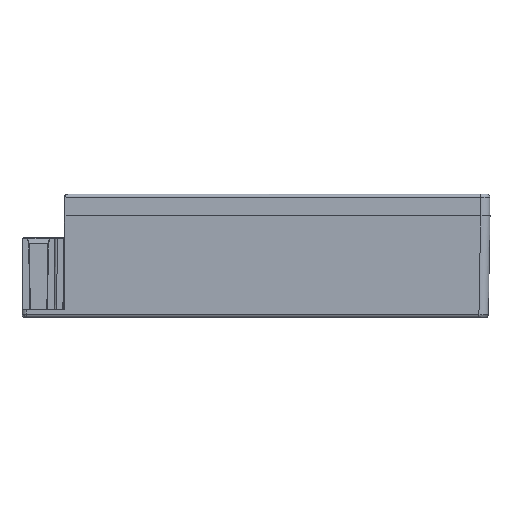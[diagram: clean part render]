
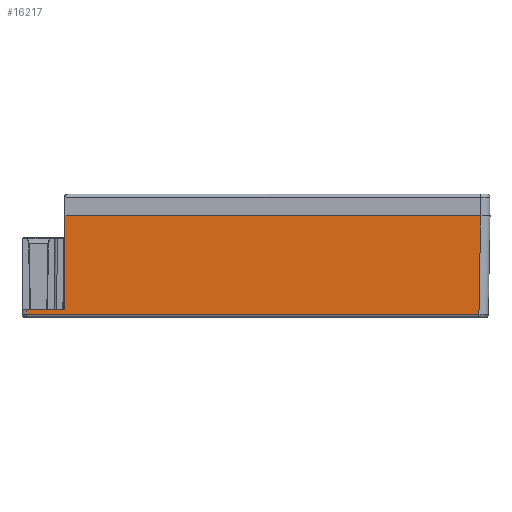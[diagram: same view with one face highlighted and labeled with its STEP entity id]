
A CAD part, top view. The second image highlights one B-rep face of the part: STEP entity #16217.
In plain terms, the highlighted planar face has unit normal (0, -0.018, 1).
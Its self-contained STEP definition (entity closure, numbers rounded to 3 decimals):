
#67 = EDGE_LOOP ( 'NONE', ( #12409, #9169, #13700, #2687, #20433, #3407 ) ) ;
#110 = LINE ( 'NONE', #12099, #1536 ) ;
#453 = VERTEX_POINT ( 'NONE', #20239 ) ;
#1346 = LINE ( 'NONE', #13482, #9421 ) ;
#1536 = VECTOR ( 'NONE', #24482, 1000. ) ;
#1581 = VERTEX_POINT ( 'NONE', #17806 ) ;
#2687 = ORIENTED_EDGE ( 'NONE', *, *, #16764, .F. ) ;
#3407 = ORIENTED_EDGE ( 'NONE', *, *, #8442, .F. ) ;
#3654 = AXIS2_PLACEMENT_3D ( 'NONE', #6420, #4415, #22506 ) ;
#4415 = DIRECTION ( 'NONE',  ( 0., -0.017, 1. ) ) ;
#4705 = CARTESIAN_POINT ( 'NONE',  ( 13.805, 37.496, 45. ) ) ;
#5290 = LINE ( 'NONE', #11523, #25229 ) ;
#6420 = CARTESIAN_POINT ( 'NONE',  ( 13.3, 37.5, 45. ) ) ;
#6720 = DIRECTION ( 'NONE',  ( 1., 0., 0. ) ) ;
#8356 = VECTOR ( 'NONE', #6720, 1000. ) ;
#8442 = EDGE_CURVE ( 'NONE', #20921, #18428, #8702, .T. ) ;
#8702 = LINE ( 'NONE', #25078, #8356 ) ;
#8769 = LINE ( 'NONE', #17300, #12380 ) ;
#8948 = DIRECTION ( 'NONE',  ( -0.009, -1., -0.017 ) ) ;
#9169 = ORIENTED_EDGE ( 'NONE', *, *, #25180, .T. ) ;
#9421 = VECTOR ( 'NONE', #9454, 1000. ) ;
#9454 = DIRECTION ( 'NONE',  ( 1., 0., 0. ) ) ;
#9469 = CARTESIAN_POINT ( 'NONE',  ( 13.5, 2.5, 44.389 ) ) ;
#10512 = FACE_OUTER_BOUND ( 'NONE', #67, .T. ) ;
#11523 = CARTESIAN_POINT ( 'NONE',  ( 146.96, 35.168, 44.959 ) ) ;
#12099 = CARTESIAN_POINT ( 'NONE',  ( 13.762, 32.5, 44.913 ) ) ;
#12380 = VECTOR ( 'NONE', #23399, 1000. ) ;
#12409 = ORIENTED_EDGE ( 'NONE', *, *, #20060, .T. ) ;
#12553 = EDGE_CURVE ( 'NONE', #25057, #18428, #14693, .T. ) ;
#13424 = CARTESIAN_POINT ( 'NONE',  ( 146.363, 0.983, 44.363 ) ) ;
#13482 = CARTESIAN_POINT ( 'NONE',  ( 13.3, 0.983, 44.363 ) ) ;
#13700 = ORIENTED_EDGE ( 'NONE', *, *, #24774, .T. ) ;
#14693 = LINE ( 'NONE', #4705, #14914 ) ;
#14914 = VECTOR ( 'NONE', #8948, 1000. ) ;
#14958 = CARTESIAN_POINT ( 'NONE',  ( 13.762, 32.5, 44.913 ) ) ;
#15645 = DIRECTION ( 'NONE',  ( 0.017, 1., 0.017 ) ) ;
#16217 = ADVANCED_FACE ( 'NONE', ( #10512 ), #19050, .T. ) ;
#16764 = EDGE_CURVE ( 'NONE', #25057, #453, #110, .T. ) ;
#17300 = CARTESIAN_POINT ( 'NONE',  ( 1.807, 37.6, 45.002 ) ) ;
#17806 = CARTESIAN_POINT ( 'NONE',  ( 1.487, 0.983, 44.363 ) ) ;
#18428 = VERTEX_POINT ( 'NONE', #9469 ) ;
#19050 = PLANE ( 'NONE',  #3654 ) ;
#20060 = EDGE_CURVE ( 'NONE', #20921, #1581, #8769, .T. ) ;
#20239 = CARTESIAN_POINT ( 'NONE',  ( 146.913, 32.5, 44.913 ) ) ;
#20433 = ORIENTED_EDGE ( 'NONE', *, *, #12553, .T. ) ;
#20921 = VERTEX_POINT ( 'NONE', #23754 ) ;
#22506 = DIRECTION ( 'NONE',  ( 0., -1., -0.017 ) ) ;
#23399 = DIRECTION ( 'NONE',  ( -0.009, -1., -0.017 ) ) ;
#23754 = CARTESIAN_POINT ( 'NONE',  ( 1.5, 2.5, 44.389 ) ) ;
#24426 = VERTEX_POINT ( 'NONE', #13424 ) ;
#24482 = DIRECTION ( 'NONE',  ( 1., 0., 0. ) ) ;
#24774 = EDGE_CURVE ( 'NONE', #24426, #453, #5290, .T. ) ;
#25057 = VERTEX_POINT ( 'NONE', #14958 ) ;
#25078 = CARTESIAN_POINT ( 'NONE',  ( 13.3, 2.5, 44.389 ) ) ;
#25180 = EDGE_CURVE ( 'NONE', #1581, #24426, #1346, .T. ) ;
#25229 = VECTOR ( 'NONE', #15645, 1000. ) ;
